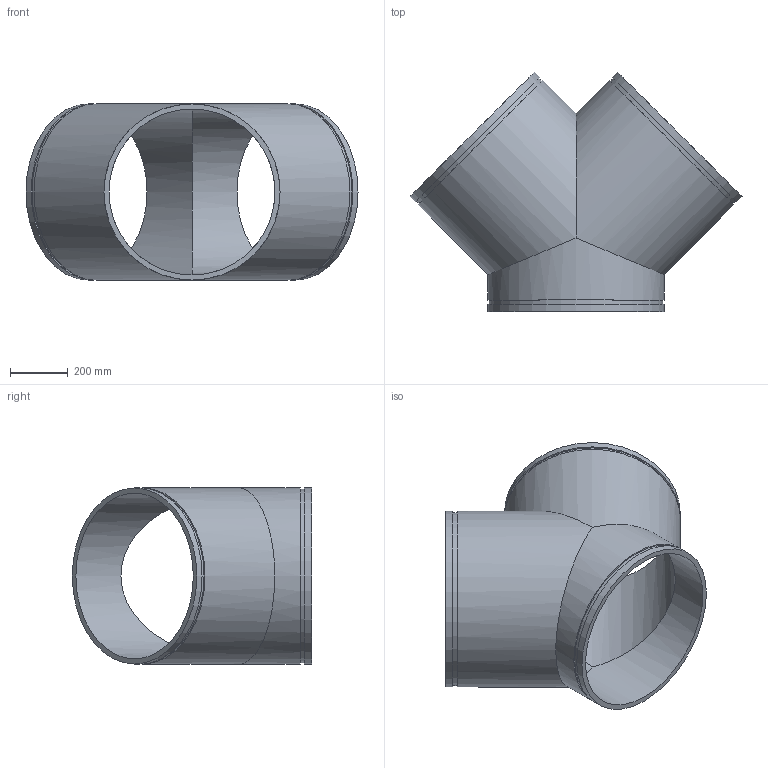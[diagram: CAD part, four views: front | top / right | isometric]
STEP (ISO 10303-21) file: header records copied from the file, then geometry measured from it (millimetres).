
FILE_DESCRIPTION(/* description */ ('This is default description.','CAx-IF Rec.Pracs.---Representation and Presentation of Product Manufacturing Information (PMI)---4.0---2014-10-13'),/* implementation_level */ '2;1');
FILE_NAME(/* name */ 'C:\Users\kkamble\AppData\Roaming\Autodesk\ApplicationPlugins\Back Up\Victaulic_IPS-Tee- Wye_ No 33 SWS (OGS)\Victaulic_IPS-Tee- Wye_ No 33 SWS (OGS)_24.stp',/* time_stamp */ '2020-09-16T22:08:58+06:00',/* author */ ('cgray'),/* organization */ ('Victaulic'),/* preprocessor_version */ 'ST-DEVELOPER v17.2',/* originating_system */ 'Autodesk Inventor 2019',/* authorisation */ '');
FILE_SCHEMA (('AP242_MANAGED_MODEL_BASED_3D_ENGINEERING_MIM_LF { 1 0 10303 442 1 1 4 }'));
Length unit declared in the file: inch
Products named in the file (1): 33 SWS-24.0
Bounding box: 1149.47 x 828.74 x 609.6 mm (x, y, z)
Volume: 29679377.6 mm3; surface area: 3587837.6 mm2
Topology: 1 solids, 1 shells, 21 faces, 48 edges, 34 vertices
Faces by surface type: cylinder 12, plane 9
Full cylindrical faces by diameter (mm): 574.7 x3, 600.862 x3, 609.6 x6
Entity records: 787 total; most frequent: DIRECTION 154, CARTESIAN_POINT 121, ORIENTED_EDGE 96, AXIS2_PLACEMENT_3D 71, EDGE_CURVE 48, VERTEX_POINT 34, EDGE_LOOP 30, CIRCLE 26
